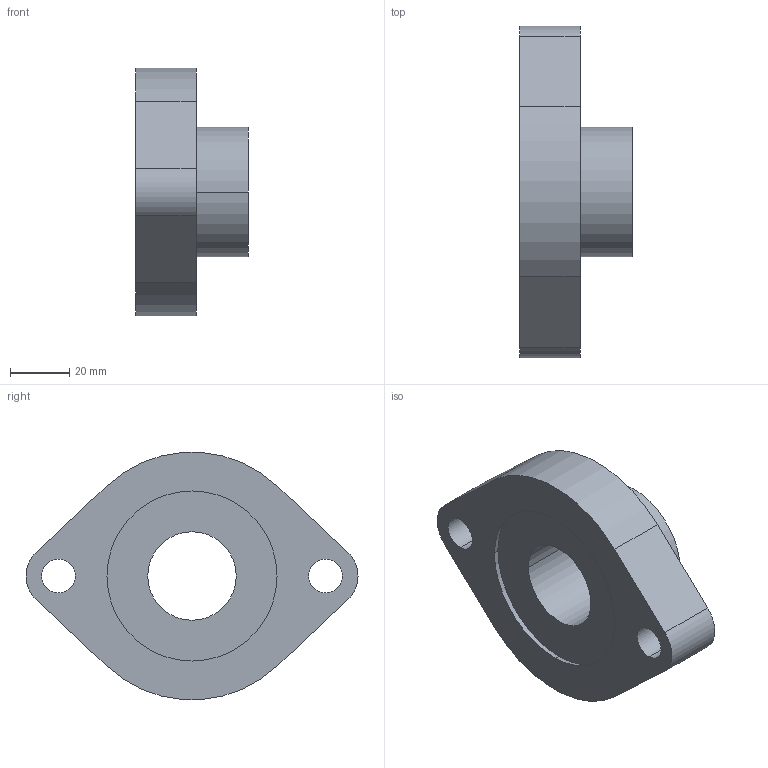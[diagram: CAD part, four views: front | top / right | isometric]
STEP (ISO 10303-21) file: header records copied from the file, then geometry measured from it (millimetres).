
FILE_DESCRIPTION(('SolidDesigner STEP Export'),'2;1');
FILE_NAME('Flanschlager_GLCTE_30.stp','2002-07-16T10:34:39',(''),(''),'SolidDesigner STEP processor Version: 9.0 (March 2001)for AP214(CD)(Solid Model)','CoCreate SolidDesigner: 11.00 12-Dec-2001(C) CoCreate Software GmbH','');
FILE_SCHEMA(('AUTOMOTIVE_DESIGN_CC2 {1 2 10303 214 -1 1 5 1}'));
Length unit declared in the file: millimetre
Products named in the file (1): Flanschlager_GLCTE_30
Bounding box: 38.2 x 112.5 x 83.7 mm (x, y, z)
Volume: 121153 mm3; surface area: 24840.9 mm2
Topology: 1 solids, 1 shells, 24 faces, 60 edges, 40 vertices
Faces by surface type: cylinder 12, plane 8, sphere 4
Entity records: 664 total; most frequent: ORIENTED_EDGE 120, CARTESIAN_POINT 103, DIRECTION 102, EDGE_CURVE 60, VERTEX_POINT 40, AXIS2_PLACEMENT_3D 39, EDGE_LOOP 32, VECTOR 24
